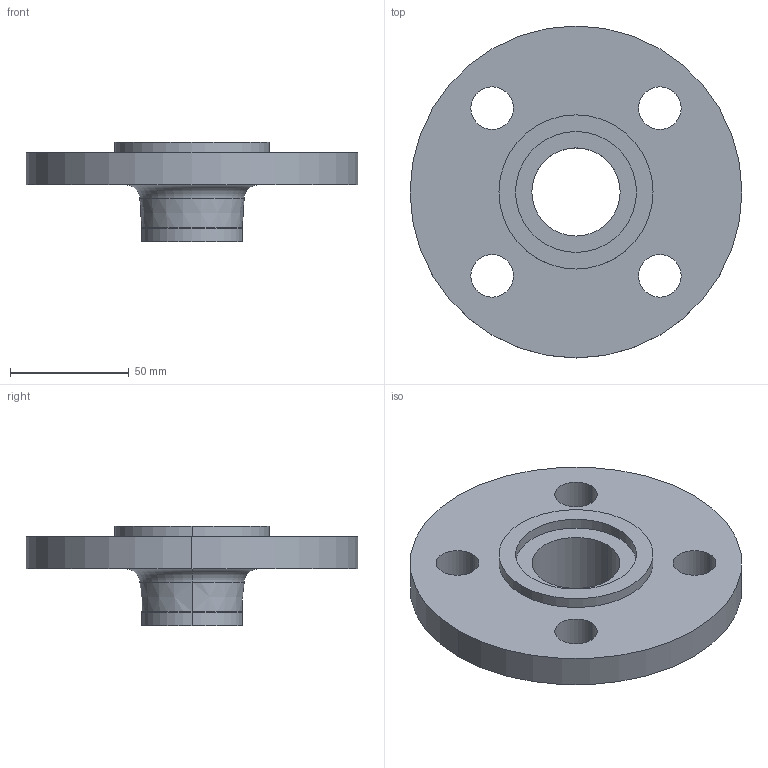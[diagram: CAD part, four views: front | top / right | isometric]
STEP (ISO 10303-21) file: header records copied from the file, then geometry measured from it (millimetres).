
FILE_DESCRIPTION (( 'STEP AP214' ), '1' );
FILE_NAME ('PN40 DN32 Type 11 - Type C Face.STEP', '2018-12-30T00:00:19', ( '' ), ( '' ), 'SwSTEP 2.0', 'SolidWorks 2019', '' );
FILE_SCHEMA (( 'AUTOMOTIVE_DESIGN' ));
Length unit declared in the file: millimetre
Products named in the file (1): PN40 DN32 Type 11 - Type C Face
Bounding box: 140 x 140 x 42 mm (x, y, z)
Volume: 195375.9 mm3; surface area: 44404 mm2
Topology: 1 solids, 1 shells, 29 faces, 66 edges, 42 vertices
Faces by surface type: cylinder 18, plane 5, torus 4, cone 2
Entity records: 892 total; most frequent: DIRECTION 172, CARTESIAN_POINT 138, ORIENTED_EDGE 132, AXIS2_PLACEMENT_3D 76, EDGE_CURVE 66, CIRCLE 46, EDGE_LOOP 42, VERTEX_POINT 42
